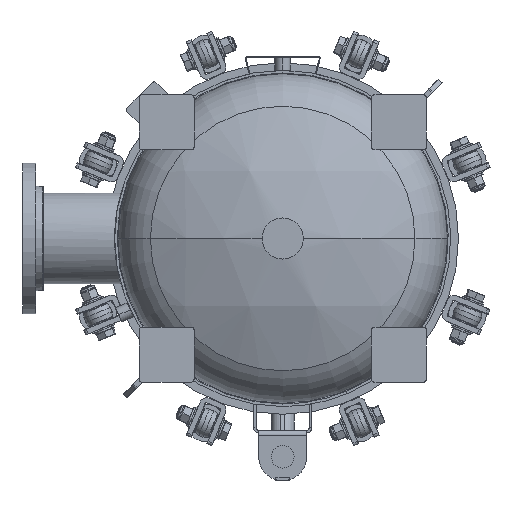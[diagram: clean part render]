
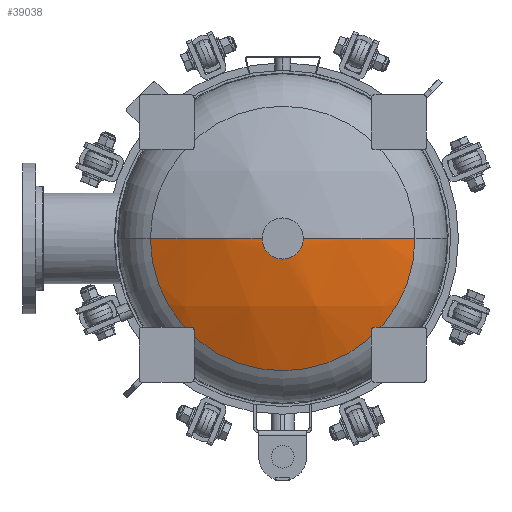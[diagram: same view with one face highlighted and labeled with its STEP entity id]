
A CAD part, front view. The second image highlights one B-rep face of the part: STEP entity #39038.
In plain terms, the highlighted spherical face has radius 547.53 mm.
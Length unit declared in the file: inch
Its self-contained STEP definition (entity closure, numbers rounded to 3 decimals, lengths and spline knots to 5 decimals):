
#921 = DIRECTION ( 'NONE',  ( 1., 0., 0. ) ) ;
#1304 = DIRECTION ( 'NONE',  ( 0., 0., -1. ) ) ;
#1684 = VERTEX_POINT ( 'NONE', #25517 ) ;
#2187 = AXIS2_PLACEMENT_3D ( 'NONE', #19326, #27099, #921 ) ;
#3821 = AXIS2_PLACEMENT_3D ( 'NONE', #10688, #32926, #46265 ) ;
#4127 = VERTEX_POINT ( 'NONE', #44158 ) ;
#4332 = CIRCLE ( 'NONE', #11944, 1.5 ) ;
#5175 = AXIS2_PLACEMENT_3D ( 'NONE', #35042, #17557, #44235 ) ;
#5617 = AXIS2_PLACEMENT_3D ( 'NONE', #56763, #1304, #19412 ) ;
#9732 = VERTEX_POINT ( 'NONE', #27539 ) ;
#10688 = CARTESIAN_POINT ( 'NONE',  ( 0., -35.72317, 0. ) ) ;
#11944 = AXIS2_PLACEMENT_3D ( 'NONE', #31171, #48122, #26445 ) ;
#12193 = AXIS2_PLACEMENT_3D ( 'NONE', #15861, #15558, #24471 ) ;
#15558 = DIRECTION ( 'NONE',  ( 0., -1., 0. ) ) ;
#15861 = CARTESIAN_POINT ( 'NONE',  ( 0., -37.9471, 0. ) ) ;
#15911 = EDGE_LOOP ( 'NONE', ( #50464, #55967, #25640, #56530, #55418 ) ) ;
#17557 = DIRECTION ( 'NONE',  ( 0., 0., -1. ) ) ;
#19326 = CARTESIAN_POINT ( 'NONE',  ( 0., -16.44304, 0. ) ) ;
#19412 = DIRECTION ( 'NONE',  ( -1., 0., 0. ) ) ;
#24471 = DIRECTION ( 'NONE',  ( 0., 0., 1. ) ) ;
#24562 = CARTESIAN_POINT ( 'NONE',  ( 9.64113, -35.72317, 0. ) ) ;
#25173 = EDGE_CURVE ( 'NONE', #9732, #1684, #46673, .T. ) ;
#25517 = CARTESIAN_POINT ( 'NONE',  ( -1.5, -37.9471, 0. ) ) ;
#25640 = ORIENTED_EDGE ( 'NONE', *, *, #47148, .F. ) ;
#26445 = DIRECTION ( 'NONE',  ( 0., 0., 1. ) ) ;
#27099 = DIRECTION ( 'NONE',  ( 0., 0., 1. ) ) ;
#27539 = CARTESIAN_POINT ( 'NONE',  ( -9.64113, -35.72317, 0. ) ) ;
#29274 = CIRCLE ( 'NONE', #12193, 1.5 ) ;
#30780 = CIRCLE ( 'NONE', #5175, 21.55631 ) ;
#31171 = CARTESIAN_POINT ( 'NONE',  ( 0., -37.9471, 0. ) ) ;
#32636 = VERTEX_POINT ( 'NONE', #24562 ) ;
#32926 = DIRECTION ( 'NONE',  ( 0., -1., 0. ) ) ;
#35042 = CARTESIAN_POINT ( 'NONE',  ( 0., -16.44304, 0. ) ) ;
#36656 = EDGE_CURVE ( 'NONE', #1684, #4127, #29274, .T. ) ;
#38400 = VERTEX_POINT ( 'NONE', #44520 ) ;
#38569 = EDGE_CURVE ( 'NONE', #9732, #32636, #42635, .T. ) ;
#38671 = SPHERICAL_SURFACE ( 'NONE', #5617, 21.55631 ) ;
#39038 = ADVANCED_FACE ( 'NONE', ( #41932 ), #38671, .T. ) ;
#41932 = FACE_OUTER_BOUND ( 'NONE', #15911, .T. ) ;
#42635 = CIRCLE ( 'NONE', #3821, 9.64113 ) ;
#44158 = CARTESIAN_POINT ( 'NONE',  ( 0., -37.9471, -1.5 ) ) ;
#44235 = DIRECTION ( 'NONE',  ( -1., 0., 0. ) ) ;
#44520 = CARTESIAN_POINT ( 'NONE',  ( 1.5, -37.9471, 0. ) ) ;
#46265 = DIRECTION ( 'NONE',  ( 1., 0., 0. ) ) ;
#46673 = CIRCLE ( 'NONE', #2187, 21.55631 ) ;
#47148 = EDGE_CURVE ( 'NONE', #4127, #38400, #4332, .T. ) ;
#48122 = DIRECTION ( 'NONE',  ( 0., -1., 0. ) ) ;
#50464 = ORIENTED_EDGE ( 'NONE', *, *, #38569, .T. ) ;
#55418 = ORIENTED_EDGE ( 'NONE', *, *, #25173, .F. ) ;
#55967 = ORIENTED_EDGE ( 'NONE', *, *, #58181, .T. ) ;
#56530 = ORIENTED_EDGE ( 'NONE', *, *, #36656, .F. ) ;
#56763 = CARTESIAN_POINT ( 'NONE',  ( 0., -16.44304, 0. ) ) ;
#58181 = EDGE_CURVE ( 'NONE', #32636, #38400, #30780, .T. ) ;
